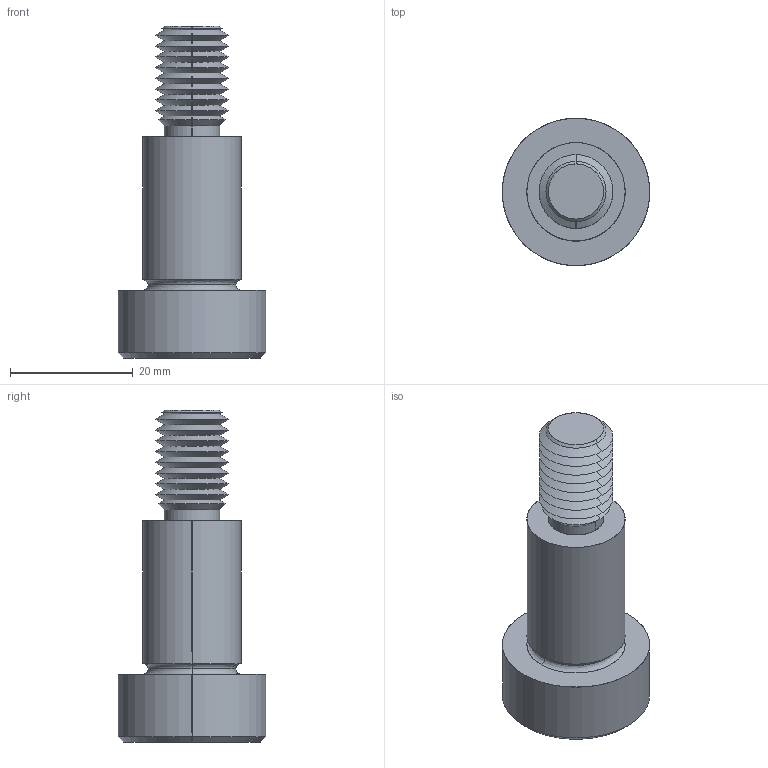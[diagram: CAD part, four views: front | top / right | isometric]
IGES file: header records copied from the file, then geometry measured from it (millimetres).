
Start section: SolidWorks IGES file using analytic representation for surfaces
Global section: file name: C:\Users\IanO\Documents\Temp Folder\GENERAL\SCREW REVISION\P0130_v2\P0130.T5_v2_20220106_IGES\P0130.160-025-T5.igs; native system: SolidWorks 2019; preprocessor: SolidWorks 2019; author: IanO; date: 220106.225255; units: millimetre
Bounding box: 24 x 24 x 54 mm (x, y, z)
Surface area: 4303.2 mm2 (no closed solid volume)
Topology: 0 solids, 0 shells, 76 faces, 588 edges, 586 vertices
Faces by surface type: revolution 56, bspline 20
